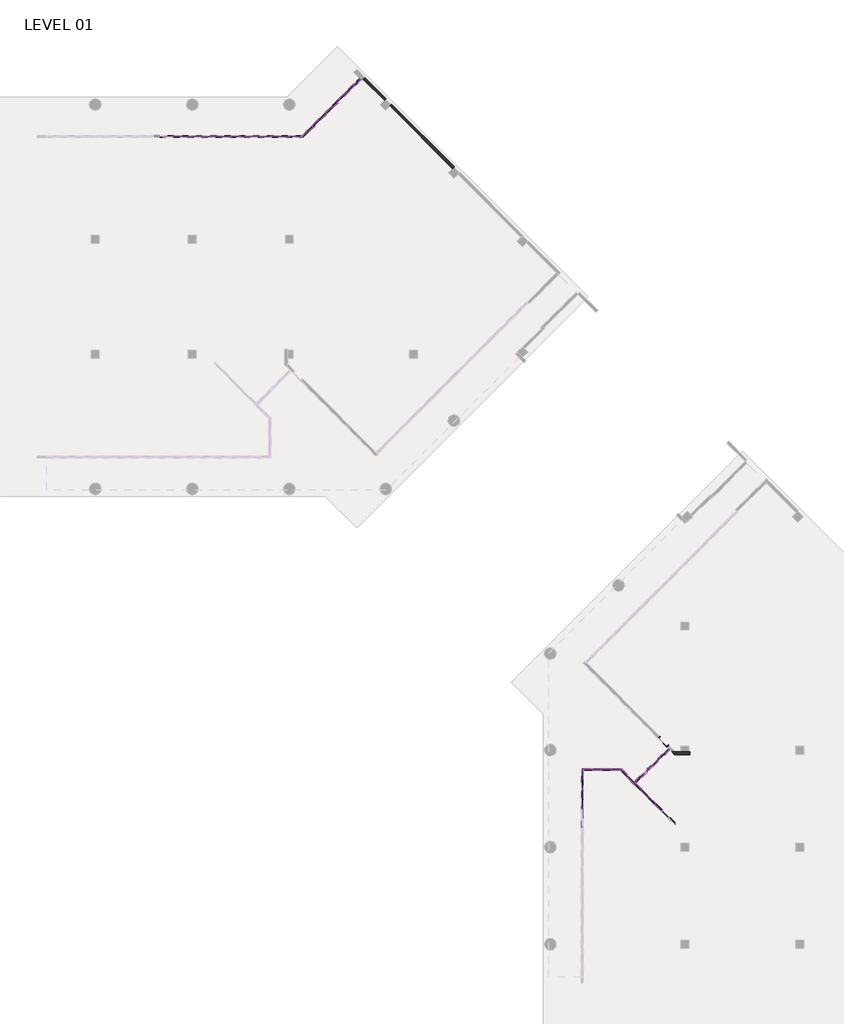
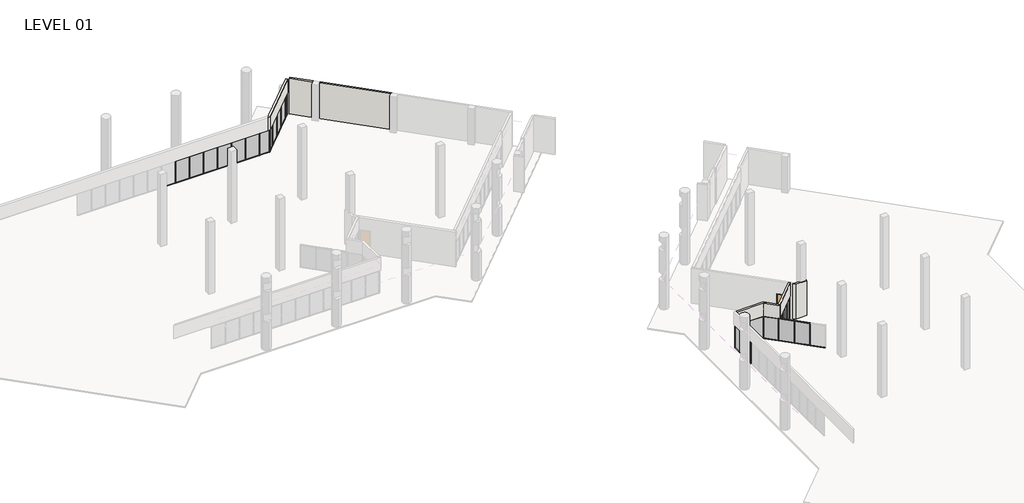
# One storey, part 14 of 24: 77 members, 22 plates, 7 walls, 2 doors.
"""IFC4 building model written with IfcOpenShell, lengths in millimetres."""

from ifc_helpers import new_model, si_unit, frame, origin, origin_with_axes, place, context, project, spatial, polyline, outline, extrude, faceted_brep, transform, mapped, element, save
from components import curtain_wall_dbl_glass_curtain_wall_dbl_glass_ad4eb2cc, door_ce57b39e, member_5247f267, member_ed5eb8ce, member_e44af9ab, member_800970d4, member_224475ab, member_cca1f9e6, member_ccf7f6e3, member_67d17f7f, member_d5560c68, member_35eb671e, member_74c9df78, plate_ce959b8d, plate_67294edd, plate_43a54168, plate_1cd28498, plate_5a14c350, plate_4fb64caf, plate_748a28b9, plate_e3fa2cc7

model = new_model("IFC4")

# Units and contexts
model_context = context("Model", 3, world=origin())
ifc_project = project(units=[si_unit("LENGTHUNIT", "METRE", prefix="MILLI")], contexts=[model_context])

# Site, building, storey
site = spatial("IfcSite", under=ifc_project)
building = spatial("IfcBuilding", under=site)
storey = spatial("IfcBuildingStorey", under=building, Name="LEVEL 01", Elevation=0.0)

# Doors
placement = place(None, origin())
curtain_wall_dbl_glass_curtain_wall_dbl_glass_shape = curtain_wall_dbl_glass_curtain_wall_dbl_glass_ad4eb2cc(model_context)
element("IfcDoor", 1, ObjectType="Curtain Wall Dbl Glass : Curtain Wall Dbl Glass", at=placement, inside=storey, context=model_context, shape_type="MappedRepresentation", body=[
    mapped(curtain_wall_dbl_glass_curtain_wall_dbl_glass_shape, transform((69420.6051367, 67386.6765398, 0.0), x_axis=(0.7071067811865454, 0.7071067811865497, 0.0), y_axis=(-0.7071067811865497, 0.7071067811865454, 0.0), z_axis=(0.0, 0.0, 1.0))),
])
door_shape = door_ce57b39e(model_context)
element("IfcDoor", 2, ObjectType="Single Flush-Full Flush-FF : 3'-0\" X 8'-6\"", at=placement, inside=storey, context=model_context, shape_type="MappedRepresentation", body=[
    mapped(door_shape, transform((70639.3173728, 69603.49563, 0.0), x_axis=(-0.7071067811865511, 0.7071067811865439, 0.0), y_axis=(-0.7071067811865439, -0.7071067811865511, 0.0), z_axis=(0.0, 0.0, 1.0))),
])

# Members
member_shape = member_5247f267(model_context)
element("IfcMember", 3, ObjectType="Rectangular Mullion : 2\" x 4.5\" rectangular", at=placement, inside=storey, context=model_context, shape_type="MappedRepresentation", body=[
    mapped(member_shape, transform((41230.55, 117137.1023049, 0.0), x_axis=(0.0, 0.0, -1.0), y_axis=(0.0, 1.0, 0.0), z_axis=(1.0, 0.0, 0.0))),
])
element("IfcMember", 4, ObjectType="Rectangular Mullion : 2\" x 4.5\" rectangular", at=placement, inside=storey, context=model_context, shape_type="MappedRepresentation", body=[
    mapped(member_shape, transform((39706.55, 117137.1023049, 0.0), x_axis=(0.0, 0.0, -1.0), y_axis=(0.0, 1.0, 0.0), z_axis=(1.0, 0.0, 0.0))),
])
element("IfcMember", 5, ObjectType="Rectangular Mullion : 2\" x 4.5\" rectangular", at=placement, inside=storey, context=model_context, shape_type="MappedRepresentation", body=[
    mapped(member_shape, transform((35134.55, 117137.1023049, 0.0), x_axis=(0.0, 0.0, -1.0), y_axis=(0.0, 1.0, 0.0), z_axis=(1.0, 0.0, 0.0))),
])
element("IfcMember", 6, ObjectType="Rectangular Mullion : 2\" x 4.5\" rectangular", at=placement, inside=storey, context=model_context, shape_type="MappedRepresentation", body=[
    mapped(member_shape, transform((43105.8866519, 117913.8944594, 0.0), x_axis=(0.0, 0.0, -1.0), y_axis=(0.7071067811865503, -0.7071067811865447, 0.0), z_axis=(-0.7071067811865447, -0.7071067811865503, 0.0))),
])
element("IfcMember", 7, ObjectType="Rectangular Mullion : 2\" x 4.5\" rectangular", at=placement, inside=storey, context=model_context, shape_type="MappedRepresentation", body=[
    mapped(member_shape, transform((33610.55, 117137.1023049, 0.0), x_axis=(0.0, 0.0, -1.0), y_axis=(0.0, 1.0, 0.0), z_axis=(1.0, 0.0, 0.0))),
])
element("IfcMember", 8, ObjectType="Rectangular Mullion : 2\" x 4.5\" rectangular", at=placement, inside=storey, context=model_context, shape_type="MappedRepresentation", body=[
    mapped(member_shape, transform((45261.1481209, 120069.1559285, 0.0), x_axis=(0.0, 0.0, -1.0), y_axis=(0.7071067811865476, -0.7071067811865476, 0.0), z_axis=(-0.7071067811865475, -0.7071067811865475, 0.0))),
])
element("IfcMember", 9, ObjectType="Rectangular Mullion : 2\" x 4.5\" rectangular", at=placement, inside=storey, context=model_context, shape_type="MappedRepresentation", body=[
    mapped(member_shape, transform((38182.55, 117137.1023049, 0.0), x_axis=(0.0, 0.0, -1.0), y_axis=(0.0, 1.0, 0.0), z_axis=(1.0, 0.0, 0.0))),
])
element("IfcMember", 10, ObjectType="Rectangular Mullion : 2\" x 4.5\" rectangular", at=placement, inside=storey, context=model_context, shape_type="MappedRepresentation", body=[
    mapped(member_shape, transform((36658.55, 117137.1023049, 0.0), x_axis=(0.0, 0.0, -1.0), y_axis=(0.0, 1.0, 0.0), z_axis=(1.0, 0.0, 0.0))),
])
element("IfcMember", 11, ObjectType="Rectangular Mullion : 2\" x 4.5\" rectangular", at=placement, inside=storey, context=model_context, shape_type="MappedRepresentation", body=[
    mapped(member_shape, transform((32086.55, 117137.1023049, 0.0), x_axis=(0.0, 0.0, -1.0), y_axis=(0.0, 1.0, 0.0), z_axis=(1.0, 0.0, 0.0))),
])
element("IfcMember", 12, ObjectType="Rectangular Mullion : 2\" x 4.5\" rectangular", at=placement, inside=storey, context=model_context, shape_type="MappedRepresentation", body=[
    mapped(member_shape, transform((44183.5173864, 118991.5251939, 0.0), x_axis=(0.0, 0.0, -1.0), y_axis=(0.7071067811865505, -0.7071067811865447, 0.0), z_axis=(-0.7071067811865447, -0.7071067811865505, 0.0))),
])
element("IfcMember", 13, ObjectType="Rectangular Mullion : 2\" x 4.5\" rectangular", at=placement, inside=storey, context=model_context, shape_type="MappedRepresentation", body=[
    mapped(member_shape, transform((39757.35, 117137.1023049, 2590.8), x_axis=(0.0, 0.0, 1.0), y_axis=(0.0, 1.0, 0.0), z_axis=(-1.0, 0.0, 0.0))),
])
element("IfcMember", 14, ObjectType="Rectangular Mullion : 2\" x 4.5\" rectangular", at=placement, inside=storey, context=model_context, shape_type="MappedRepresentation", body=[
    mapped(member_shape, transform((35185.35, 117137.1023049, 2590.8), x_axis=(0.0, 0.0, 1.0), y_axis=(0.0, 1.0, 0.0), z_axis=(-1.0, 0.0, 0.0))),
])
element("IfcMember", 15, ObjectType="Rectangular Mullion : 2\" x 4.5\" rectangular", at=placement, inside=storey, context=model_context, shape_type="MappedRepresentation", body=[
    mapped(member_shape, transform((33661.35, 117137.1023049, 2590.8), x_axis=(0.0, 0.0, 1.0), y_axis=(0.0, 1.0, 0.0), z_axis=(-1.0, 0.0, 0.0))),
])
element("IfcMember", 16, ObjectType="Rectangular Mullion : 2\" x 4.5\" rectangular", at=placement, inside=storey, context=model_context, shape_type="MappedRepresentation", body=[
    mapped(member_shape, transform((45225.2270964, 120033.234904, 2590.8), x_axis=(0.0, 0.0, 1.0), y_axis=(0.7071067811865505, -0.7071067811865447, 0.0), z_axis=(0.7071067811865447, 0.7071067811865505, 0.0))),
])
element("IfcMember", 17, ObjectType="Rectangular Mullion : 2\" x 4.5\" rectangular", at=placement, inside=storey, context=model_context, shape_type="MappedRepresentation", body=[
    mapped(member_shape, transform((38233.35, 117137.1023049, 2590.8), x_axis=(0.0, 0.0, 1.0), y_axis=(0.0, 1.0, 0.0), z_axis=(-1.0, 0.0, 0.0))),
])
element("IfcMember", 18, ObjectType="Rectangular Mullion : 2\" x 4.5\" rectangular", at=placement, inside=storey, context=model_context, shape_type="MappedRepresentation", body=[
    mapped(member_shape, transform((36709.35, 117137.1023049, 2590.8), x_axis=(0.0, 0.0, 1.0), y_axis=(0.0, 1.0, 0.0), z_axis=(-1.0, 0.0, 0.0))),
])
element("IfcMember", 19, ObjectType="Rectangular Mullion : 2\" x 4.5\" rectangular", at=placement, inside=storey, context=model_context, shape_type="MappedRepresentation", body=[
    mapped(member_shape, transform((32137.35, 117137.1023049, 2590.8), x_axis=(0.0, 0.0, 1.0), y_axis=(0.0, 1.0, 0.0), z_axis=(-1.0, 0.0, 0.0))),
])
element("IfcMember", 20, ObjectType="Rectangular Mullion : 2\" x 4.5\" rectangular", at=placement, inside=storey, context=model_context, shape_type="MappedRepresentation", body=[
    mapped(member_shape, transform((44147.5963619, 118955.6041694, 2590.8), x_axis=(0.0, 0.0, 1.0), y_axis=(0.7071067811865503, -0.7071067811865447, 0.0), z_axis=(0.7071067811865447, 0.7071067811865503, 0.0))),
])
element("IfcMember", 21, ObjectType="Rectangular Mullion : 2\" x 4.5\" rectangular", at=placement, inside=storey, context=model_context, shape_type="MappedRepresentation", body=[
    mapped(member_shape, transform((46302.857831, 121110.8656385, 2590.8), x_axis=(0.0, 0.0, 1.0), y_axis=(0.7071067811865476, -0.7071067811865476, 0.0), z_axis=(0.7071067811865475, 0.7071067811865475, 0.0))),
])
member_2_shape = member_ed5eb8ce(model_context)
element("IfcMember", 22, ObjectType="Rectangular Mullion : 2\" x 4.5\" rectangular", at=placement, inside=storey, context=model_context, shape_type="MappedRepresentation", body=[
    mapped(member_2_shape, transform((41281.35, 117137.1023049, 2590.8), x_axis=(0.0, 0.0, 1.0), y_axis=(0.0, 1.0, 0.0), z_axis=(-1.0, 0.0, 0.0))),
])
element("IfcMember", 23, ObjectType="Rectangular Mullion : 2\" x 4.5\" rectangular", at=placement, inside=storey, context=model_context, shape_type="MappedRepresentation", body=[
    mapped(member_2_shape, transform((43069.9656274, 117877.9734349, 2590.8), x_axis=(0.0, 0.0, 1.0), y_axis=(0.7071067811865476, -0.7071067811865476, 0.0), z_axis=(0.7071067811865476, 0.7071067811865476, 0.0))),
])
element("IfcMember", 24, ObjectType="Rectangular Mullion : 2\" x 4.5\" rectangular", at=placement, inside=storey, context=model_context, shape_type="MappedRepresentation", body=[
    mapped(member_2_shape, transform((42278.2944974, 117137.1023049, 0.0), x_axis=(0.0, 0.0, -1.0), y_axis=(0.0, 1.0, 0.0), z_axis=(1.0, 0.0, 0.0))),
])
element("IfcMember", 25, ObjectType="Rectangular Mullion : 2\" x 4.5\" rectangular", at=placement, inside=storey, context=model_context, shape_type="MappedRepresentation", body=[
    mapped(member_2_shape, transform((42365.0155219, 117173.0233294, 0.0), x_axis=(0.0, 0.0, -1.0), y_axis=(0.7071067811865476, -0.7071067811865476, 0.0), z_axis=(-0.7071067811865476, -0.7071067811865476, 0.0))),
])
member_3_shape = member_e44af9ab(model_context)
element("IfcMember", 26, ObjectType="Rectangular Mullion : 2\" x 4.5\" rectangular", at=placement, inside=storey, context=model_context, shape_type="MappedRepresentation", body=[
    mapped(member_3_shape, transform((41255.95, 117137.1023049, 0.0), x_axis=(-1.0, 0.0, 0.0), y_axis=(0.0, 1.0, 0.0), z_axis=(0.0, 0.0, -1.0))),
])
element("IfcMember", 27, ObjectType="Rectangular Mullion : 2\" x 4.5\" rectangular", at=placement, inside=storey, context=model_context, shape_type="MappedRepresentation", body=[
    mapped(member_3_shape, transform((39731.95, 117137.1023049, 0.0), x_axis=(-1.0, 0.0, 0.0), y_axis=(0.0, 1.0, 0.0), z_axis=(0.0, 0.0, -1.0))),
])
element("IfcMember", 28, ObjectType="Rectangular Mullion : 2\" x 4.5\" rectangular", at=placement, inside=storey, context=model_context, shape_type="MappedRepresentation", body=[
    mapped(member_3_shape, transform((35159.95, 117137.1023049, 0.0), x_axis=(-1.0, 0.0, 0.0), y_axis=(0.0, 1.0, 0.0), z_axis=(0.0, 0.0, -1.0))),
])
element("IfcMember", 29, ObjectType="Rectangular Mullion : 2\" x 4.5\" rectangular", at=placement, inside=storey, context=model_context, shape_type="MappedRepresentation", body=[
    mapped(member_3_shape, transform((43087.9261396, 117895.9339472, 0.0), x_axis=(0.7071067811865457, 0.7071067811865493, 0.0), y_axis=(0.7071067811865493, -0.7071067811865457, 0.0), z_axis=(0.0, 0.0, -1.0))),
])
element("IfcMember", 30, ObjectType="Rectangular Mullion : 2\" x 4.5\" rectangular", at=placement, inside=storey, context=model_context, shape_type="MappedRepresentation", body=[
    mapped(member_3_shape, transform((33635.95, 117137.1023049, 0.0), x_axis=(-1.0, 0.0, 0.0), y_axis=(0.0, 1.0, 0.0), z_axis=(0.0, 0.0, -1.0))),
])
element("IfcMember", 31, ObjectType="Rectangular Mullion : 2\" x 4.5\" rectangular", at=placement, inside=storey, context=model_context, shape_type="MappedRepresentation", body=[
    mapped(member_3_shape, transform((45243.1876087, 120051.1954162, 0.0), x_axis=(0.7071067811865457, 0.7071067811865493, 0.0), y_axis=(0.7071067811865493, -0.7071067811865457, 0.0), z_axis=(0.0, 0.0, -1.0))),
])
element("IfcMember", 32, ObjectType="Rectangular Mullion : 2\" x 4.5\" rectangular", at=placement, inside=storey, context=model_context, shape_type="MappedRepresentation", body=[
    mapped(member_3_shape, transform((38207.95, 117137.1023049, 0.0), x_axis=(-1.0, 0.0, 0.0), y_axis=(0.0, 1.0, 0.0), z_axis=(0.0, 0.0, -1.0))),
])
element("IfcMember", 33, ObjectType="Rectangular Mullion : 2\" x 4.5\" rectangular", at=placement, inside=storey, context=model_context, shape_type="MappedRepresentation", body=[
    mapped(member_3_shape, transform((36683.95, 117137.1023049, 0.0), x_axis=(-1.0, 0.0, 0.0), y_axis=(0.0, 1.0, 0.0), z_axis=(0.0, 0.0, -1.0))),
])
element("IfcMember", 34, ObjectType="Rectangular Mullion : 2\" x 4.5\" rectangular", at=placement, inside=storey, context=model_context, shape_type="MappedRepresentation", body=[
    mapped(member_3_shape, transform((32111.95, 117137.1023049, 0.0), x_axis=(-1.0, 0.0, 0.0), y_axis=(0.0, 1.0, 0.0), z_axis=(0.0, 0.0, -1.0))),
])
element("IfcMember", 35, ObjectType="Rectangular Mullion : 2\" x 4.5\" rectangular", at=placement, inside=storey, context=model_context, shape_type="MappedRepresentation", body=[
    mapped(member_3_shape, transform((44165.5568742, 118973.5646817, 0.0), x_axis=(0.7071067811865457, 0.7071067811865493, 0.0), y_axis=(0.7071067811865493, -0.7071067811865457, 0.0), z_axis=(0.0, 0.0, -1.0))),
])
element("IfcMember", 36, ObjectType="Rectangular Mullion : 2\" x 4.5\" rectangular", at=placement, inside=storey, context=model_context, shape_type="MappedRepresentation", body=[
    mapped(member_3_shape, transform((46320.8183432, 121128.8261507, 0.0), x_axis=(0.7071067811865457, 0.7071067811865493, 0.0), y_axis=(0.7071067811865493, -0.7071067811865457, 0.0), z_axis=(0.0, 0.0, -1.0))),
])
member_4_shape = member_800970d4(model_context)
element("IfcMember", 37, ObjectType="Rectangular Mullion : 2\" x 4.5\" rectangular", at=placement, inside=storey, context=model_context, shape_type="MappedRepresentation", body=[
    mapped(member_4_shape, transform((46826.0801997, 121634.0880073, 0.0), x_axis=(0.7071067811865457, 0.7071067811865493, 0.0), y_axis=(0.7071067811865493, -0.7071067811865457, 0.0), z_axis=(0.0, 0.0, -1.0))),
])
element("IfcMember", 38, ObjectType="Rectangular Mullion : 2\" x 4.5\" rectangular", at=placement, inside=storey, context=model_context, shape_type="MappedRepresentation", body=[
    mapped(member_4_shape, transform((42329.0944974, 117137.1023049, 2590.8), x_axis=(1.0, 0.0, 0.0), y_axis=(0.0, 1.0, 0.0), z_axis=(0.0, 0.0, 1.0))),
])
element("IfcMember", 39, ObjectType="Rectangular Mullion : 2\" x 4.5\" rectangular", at=placement, inside=storey, context=model_context, shape_type="MappedRepresentation", body=[
    mapped(member_4_shape, transform((42329.0944974, 117137.1023049, 2590.8), x_axis=(-0.7071067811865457, -0.7071067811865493, 0.0), y_axis=(0.7071067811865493, -0.7071067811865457, 0.0), z_axis=(0.0, 0.0, 1.0))),
])
member_5_shape = member_224475ab(model_context)
element("IfcMember", 40, ObjectType="Rectangular Mullion : 2\" x 4.5\" rectangular", at=placement, inside=storey, context=model_context, shape_type="MappedRepresentation", body=[
    mapped(member_5_shape, transform((46790.1591752, 121598.1669828, 2590.8), x_axis=(0.0, 0.0, 1.0), y_axis=(0.7071067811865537, -0.7071067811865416, 0.0), z_axis=(0.7071067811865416, 0.7071067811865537, 0.0))),
])
element("IfcMember", 41, ObjectType="Rectangular Mullion : 2\" x 4.5\" rectangular", at=placement, inside=storey, context=model_context, shape_type="MappedRepresentation", body=[
    mapped(member_5_shape, transform((46338.7788555, 121146.786663, 0.0), x_axis=(0.0, 0.0, -1.0), y_axis=(0.7071067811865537, -0.7071067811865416, 0.0), z_axis=(-0.7071067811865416, -0.7071067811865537, 0.0))),
])
element("IfcMember", 42, ObjectType="Rectangular Mullion : 2\" x 4.5\" rectangular", at=placement, inside=storey, context=model_context, shape_type="MappedRepresentation", body=[
    mapped(member_shape, transform((64254.6347164, 65874.5675885, 2590.8), x_axis=(0.0, 0.0, 1.0), y_axis=(1.0, 0.0, 0.0), z_axis=(0.0, 1.0, 0.0))),
])
element("IfcMember", 43, ObjectType="Rectangular Mullion : 2\" x 4.5\" rectangular", at=placement, inside=storey, context=model_context, shape_type="MappedRepresentation", body=[
    mapped(member_shape, transform((64254.6347164, 64350.5675885, 2590.8), x_axis=(0.0, 0.0, 1.0), y_axis=(1.0, 0.0, 0.0), z_axis=(0.0, 1.0, 0.0))),
])
element("IfcMember", 44, ObjectType="Rectangular Mullion : 2\" x 4.5\" rectangular", at=placement, inside=storey, context=model_context, shape_type="MappedRepresentation", body=[
    mapped(member_shape, transform((70517.5664077, 64209.0358972, 2590.8), x_axis=(0.0, 0.0, 1.0), y_axis=(-0.7071067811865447, -0.7071067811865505, 0.0), z_axis=(0.7071067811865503, -0.7071067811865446, 0.0))),
])
element("IfcMember", 45, ObjectType="Rectangular Mullion : 2\" x 4.5\" rectangular", at=placement, inside=storey, context=model_context, shape_type="MappedRepresentation", body=[
    mapped(member_shape, transform((69439.9356732, 65286.6666317, 2590.8), x_axis=(0.0, 0.0, 1.0), y_axis=(-0.7071067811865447, -0.7071067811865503, 0.0), z_axis=(0.7071067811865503, -0.7071067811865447, 0.0))),
])
element("IfcMember", 46, ObjectType="Rectangular Mullion : 2\" x 4.5\" rectangular", at=placement, inside=storey, context=model_context, shape_type="MappedRepresentation", body=[
    mapped(member_shape, transform((64254.6347164, 64401.3675885, 0.0), x_axis=(0.0, 0.0, -1.0), y_axis=(1.0, 0.0, 0.0), z_axis=(0.0, -1.0, 0.0))),
])
element("IfcMember", 47, ObjectType="Rectangular Mullion : 2\" x 4.5\" rectangular", at=placement, inside=storey, context=model_context, shape_type="MappedRepresentation", body=[
    mapped(member_shape, transform((68398.2259632, 66328.3763418, 0.0), x_axis=(0.0, 0.0, -1.0), y_axis=(-0.7071067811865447, -0.7071067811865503, 0.0), z_axis=(-0.7071067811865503, 0.7071067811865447, 0.0))),
])
element("IfcMember", 48, ObjectType="Rectangular Mullion : 2\" x 4.5\" rectangular", at=placement, inside=storey, context=model_context, shape_type="MappedRepresentation", body=[
    mapped(member_shape, transform((69475.8566977, 65250.7456072, 0.0), x_axis=(0.0, 0.0, -1.0), y_axis=(-0.7071067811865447, -0.7071067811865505, 0.0), z_axis=(-0.7071067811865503, 0.7071067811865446, 0.0))),
])
element("IfcMember", 49, ObjectType="Rectangular Mullion : 2\" x 4.5\" rectangular", at=placement, inside=storey, context=model_context, shape_type="MappedRepresentation", body=[
    mapped(member_3_shape, transform((64254.6347164, 65899.9675885, 0.0), x_axis=(0.0, 1.0, 0.0), y_axis=(1.0, 0.0, 0.0), z_axis=(0.0, 0.0, -1.0))),
])
element("IfcMember", 50, ObjectType="Rectangular Mullion : 2\" x 4.5\" rectangular", at=placement, inside=storey, context=model_context, shape_type="MappedRepresentation", body=[
    mapped(member_3_shape, transform((64254.6347164, 64375.9675885, 0.0), x_axis=(0.0, 1.0, 0.0), y_axis=(1.0, 0.0, 0.0), z_axis=(0.0, 0.0, -1.0))),
])
element("IfcMember", 51, ObjectType="Rectangular Mullion : 2\" x 4.5\" rectangular", at=placement, inside=storey, context=model_context, shape_type="MappedRepresentation", body=[
    mapped(member_3_shape, transform((65778.6347164, 67423.9675885, 0.0), x_axis=(1.0, 0.0, 0.0), y_axis=(0.0, -1.0, 0.0), z_axis=(0.0, 0.0, -1.0))),
])
element("IfcMember", 52, ObjectType="Rectangular Mullion : 2\" x 4.5\" rectangular", at=placement, inside=storey, context=model_context, shape_type="MappedRepresentation", body=[
    mapped(member_3_shape, transform((68380.2654509, 66346.336854, 0.0), x_axis=(0.7071067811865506, -0.7071067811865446, 0.0), y_axis=(-0.7071067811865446, -0.7071067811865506, 0.0), z_axis=(0.0, 0.0, -1.0))),
])
element("IfcMember", 53, ObjectType="Rectangular Mullion : 2\" x 4.5\" rectangular", at=placement, inside=storey, context=model_context, shape_type="MappedRepresentation", body=[
    mapped(member_3_shape, transform((70535.52692, 64191.0753849, 0.0), x_axis=(0.7071067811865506, -0.7071067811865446, 0.0), y_axis=(-0.7071067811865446, -0.7071067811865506, 0.0), z_axis=(0.0, 0.0, -1.0))),
])
element("IfcMember", 54, ObjectType="Rectangular Mullion : 2\" x 4.5\" rectangular", at=placement, inside=storey, context=model_context, shape_type="MappedRepresentation", body=[
    mapped(member_3_shape, transform((69457.8961855, 65268.7061195, 0.0), x_axis=(0.7071067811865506, -0.7071067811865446, 0.0), y_axis=(-0.7071067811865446, -0.7071067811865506, 0.0), z_axis=(0.0, 0.0, -1.0))),
])
element("IfcMember", 55, ObjectType="Rectangular Mullion : 2\" x 4.5\" rectangular", at=placement, inside=storey, context=model_context, shape_type="MappedRepresentation", body=[
    mapped(member_3_shape, transform((69097.6075963, 67063.6789994, 0.0), x_axis=(0.7071067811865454, 0.7071067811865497, 0.0), y_axis=(0.7071067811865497, -0.7071067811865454, 0.0), z_axis=(0.0, 0.0, -1.0))),
])
element("IfcMember", 56, ObjectType="Rectangular Mullion : 2\" x 4.5\" rectangular", at=placement, inside=storey, context=model_context, shape_type="MappedRepresentation", body=[
    mapped(member_3_shape, transform((70390.7644778, 68356.8358808, 0.0), x_axis=(0.7071067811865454, 0.7071067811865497, 0.0), y_axis=(0.7071067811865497, -0.7071067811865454, 0.0), z_axis=(0.0, 0.0, -1.0))),
])
element("IfcMember", 57, ObjectType="Rectangular Mullion : 2\" x 4.5\" rectangular", at=placement, inside=storey, context=model_context, shape_type="MappedRepresentation", body=[
    mapped(member_4_shape, transform((64254.6347164, 67423.9675885, 0.0), x_axis=(0.0, 1.0, 0.0), y_axis=(1.0, 0.0, 0.0), z_axis=(0.0, 0.0, -1.0))),
])
element("IfcMember", 58, ObjectType="Rectangular Mullion : 2\" x 4.5\" rectangular", at=placement, inside=storey, context=model_context, shape_type="MappedRepresentation", body=[
    mapped(member_4_shape, transform((67302.6347164, 67423.9675885, 0.0), x_axis=(1.0, 0.0, 0.0), y_axis=(0.0, -1.0, 0.0), z_axis=(0.0, 0.0, -1.0))),
])
element("IfcMember", 59, ObjectType="Rectangular Mullion : 2\" x 4.5\" rectangular", at=placement, inside=storey, context=model_context, shape_type="MappedRepresentation", body=[
    mapped(member_4_shape, transform((71066.5287509, 69032.6001539, 0.0), x_axis=(0.7071067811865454, 0.7071067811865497, 0.0), y_axis=(0.7071067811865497, -0.7071067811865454, 0.0), z_axis=(0.0, 0.0, -1.0))),
])
element("IfcMember", 60, ObjectType="Rectangular Mullion : 2\" x 4.5\" rectangular", at=placement, inside=storey, context=model_context, shape_type="MappedRepresentation", body=[
    mapped(member_4_shape, transform((64254.6347164, 67423.9675885, 2590.8), x_axis=(-1.0, 0.0, 0.0), y_axis=(0.0, -1.0, 0.0), z_axis=(0.0, 0.0, 1.0))),
])
element("IfcMember", 61, ObjectType="Rectangular Mullion : 2\" x 4.5\" rectangular", at=placement, inside=storey, context=model_context, shape_type="MappedRepresentation", body=[
    mapped(member_4_shape, transform((67302.6347164, 67423.9675885, 2590.8), x_axis=(-0.7071067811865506, 0.7071067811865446, 0.0), y_axis=(-0.7071067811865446, -0.7071067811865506, 0.0), z_axis=(0.0, 0.0, 1.0))),
])
element("IfcMember", 62, ObjectType="Rectangular Mullion : 2\" x 4.5\" rectangular", at=placement, inside=storey, context=model_context, shape_type="MappedRepresentation", body=[
    mapped(member_4_shape, transform((68420.6766035, 66386.7480065, 2590.8), x_axis=(-0.7071067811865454, -0.7071067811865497, 0.0), y_axis=(0.7071067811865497, -0.7071067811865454, 0.0), z_axis=(0.0, 0.0, 1.0))),
])
member_6_shape = member_cca1f9e6(model_context)
element("IfcMember", 63, ObjectType="Rectangular Mullion : 2\" x 4.5\" rectangular", at=placement, inside=storey, context=model_context, shape_type="MappedRepresentation", body=[
    mapped(member_6_shape, transform((64254.6347164, 67373.1675885, 2590.8), x_axis=(0.0, 0.0, 1.0), y_axis=(1.0, 0.0, 0.0), z_axis=(0.0, 1.0, 0.0))),
])
element("IfcMember", 64, ObjectType="Rectangular Mullion : 2\" x 4.5\" rectangular", at=placement, inside=storey, context=model_context, shape_type="MappedRepresentation", body=[
    mapped(member_6_shape, transform((67251.8347164, 67423.9675885, 2590.8), x_axis=(0.0, 0.0, 1.0), y_axis=(0.0, -1.0, 0.0), z_axis=(1.0, 0.0, 0.0))),
])
element("IfcMember", 65, ObjectType="Rectangular Mullion : 2\" x 4.5\" rectangular", at=placement, inside=storey, context=model_context, shape_type="MappedRepresentation", body=[
    mapped(member_6_shape, transform((65753.2347164, 67423.9675885, 2590.8), x_axis=(0.0, 0.0, 1.0), y_axis=(0.0, -1.0, 0.0), z_axis=(1.0, 0.0, 0.0))),
])
element("IfcMember", 66, ObjectType="Rectangular Mullion : 2\" x 4.5\" rectangular", at=placement, inside=storey, context=model_context, shape_type="MappedRepresentation", body=[
    mapped(member_6_shape, transform((68362.3049387, 66364.2973662, 2590.8), x_axis=(0.0, 0.0, 1.0), y_axis=(-0.7071067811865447, -0.7071067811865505, 0.0), z_axis=(0.7071067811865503, -0.7071067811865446, 0.0))),
])
member_7_shape = member_ccf7f6e3(model_context)
element("IfcMember", 67, ObjectType="Rectangular Mullion : 2\" x 4.5\" rectangular", at=placement, inside=storey, context=model_context, shape_type="MappedRepresentation", body=[
    mapped(member_7_shape, transform((64305.4347164, 67423.9675885, 0.0), x_axis=(0.0, 0.0, -1.0), y_axis=(0.0, -1.0, 0.0), z_axis=(-1.0, 0.0, 0.0))),
])
element("IfcMember", 68, ObjectType="Rectangular Mullion : 2\" x 4.5\" rectangular", at=placement, inside=storey, context=model_context, shape_type="MappedRepresentation", body=[
    mapped(member_7_shape, transform((64254.6347164, 65925.3675885, 0.0), x_axis=(0.0, 0.0, -1.0), y_axis=(1.0, 0.0, 0.0), z_axis=(0.0, -1.0, 0.0))),
])
element("IfcMember", 69, ObjectType="Rectangular Mullion : 2\" x 4.5\" rectangular", at=placement, inside=storey, context=model_context, shape_type="MappedRepresentation", body=[
    mapped(member_7_shape, transform((65804.0347164, 67423.9675885, 0.0), x_axis=(0.0, 0.0, -1.0), y_axis=(0.0, -1.0, 0.0), z_axis=(-1.0, 0.0, 0.0))),
])
element("IfcMember", 70, ObjectType="Rectangular Mullion : 2\" x 4.5\" rectangular", at=placement, inside=storey, context=model_context, shape_type="MappedRepresentation", body=[
    mapped(member_7_shape, transform((67338.5557409, 67388.046564, 0.0), x_axis=(0.0, 0.0, -1.0), y_axis=(-0.7071067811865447, -0.7071067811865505, 0.0), z_axis=(-0.7071067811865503, 0.7071067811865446, 0.0))),
])
element("IfcMember", 71, ObjectType="Rectangular Mullion : 2\" x 4.5\" rectangular", at=placement, inside=storey, context=model_context, shape_type="MappedRepresentation", body=[
    mapped(member_7_shape, transform((70553.4874322, 64173.1148727, 0.0), x_axis=(0.0, 0.0, -1.0), y_axis=(-0.7071067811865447, -0.7071067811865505, 0.0), z_axis=(-0.7071067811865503, 0.7071067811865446, 0.0))),
])
member_8_shape = member_67d17f7f(model_context)
element("IfcMember", 72, ObjectType="Rectangular Mullion : 2\" x 4.5\" rectangular", at=placement, inside=storey, context=model_context, shape_type="MappedRepresentation", body=[
    mapped(member_8_shape, transform((71030.6077264, 68996.6791294, 2590.8), x_axis=(0.0, 0.0, 1.0), y_axis=(0.7071067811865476, -0.7071067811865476, 0.0), z_axis=(0.7071067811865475, 0.7071067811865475, 0.0))),
])
member_9_shape = member_d5560c68(model_context)
element("IfcMember", 73, ObjectType="Rectangular Mullion : 2\" x 4.5\" rectangular", at=placement, inside=storey, context=model_context, shape_type="MappedRepresentation", body=[
    mapped(member_9_shape, transform((68456.597628, 66422.669031, 0.0), x_axis=(0.0, 0.0, -1.0), y_axis=(0.707106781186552, -0.707106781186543, 0.0), z_axis=(-0.707106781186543, -0.707106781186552, 0.0))),
])
element("IfcMember", 74, ObjectType="Rectangular Mullion : 2\" x 4.5\" rectangular", at=placement, inside=storey, context=model_context, shape_type="MappedRepresentation", body=[
    mapped(member_9_shape, transform((69079.6470841, 67045.7184871, 2590.8), x_axis=(0.0, 0.0, 1.0), y_axis=(0.707106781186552, -0.707106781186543, 0.0), z_axis=(0.707106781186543, 0.707106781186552, 0.0))),
])
element("IfcMember", 75, ObjectType="Rectangular Mullion : 2\" x 4.5\" rectangular", at=placement, inside=storey, context=model_context, shape_type="MappedRepresentation", body=[
    mapped(member_8_shape, transform((70408.72499, 68374.7963931, 0.0), x_axis=(0.0, 0.0, -1.0), y_axis=(0.7071067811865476, -0.7071067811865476, 0.0), z_axis=(-0.7071067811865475, -0.7071067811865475, 0.0))),
])
element("IfcMember", 76, ObjectType="Rectangular Mullion : 2\" x 4.5\" rectangular", at=placement, inside=storey, context=model_context, shape_type="MappedRepresentation", body=[
    mapped(member_3_shape, transform((69743.6026772, 67709.6740802, 0.0), x_axis=(0.7071067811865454, 0.7071067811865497, 0.0), y_axis=(0.7071067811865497, -0.7071067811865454, 0.0), z_axis=(0.0, 0.0, -1.0))),
])
member_10_shape = member_35eb671e(model_context)
element("IfcMember", 77, ObjectType="Rectangular Mullion : 2\" x 4.5\" rectangular", at=placement, inside=storey, context=model_context, shape_type="MappedRepresentation", body=[
    mapped(member_10_shape, transform((70372.8039655, 68338.8753686, 2590.8), x_axis=(0.0, 0.0, 1.0), y_axis=(0.7071067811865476, -0.7071067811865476, 0.0), z_axis=(0.7071067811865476, 0.7071067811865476, 0.0))),
])
member_11_shape = member_74c9df78(model_context)
element("IfcMember", 78, ObjectType="Rectangular Mullion : 2\" x 4.5\" rectangular", at=placement, inside=storey, context=model_context, shape_type="MappedRepresentation", body=[
    mapped(member_11_shape, transform((69725.6421649, 67691.713568, 2590.8), x_axis=(0.0, 0.0, 1.0), y_axis=(0.7071067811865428, -0.7071067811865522, 0.0), z_axis=(0.7071067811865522, 0.7071067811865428, 0.0))),
])
element("IfcMember", 79, ObjectType="Rectangular Mullion : 2\" x 4.5\" rectangular", at=placement, inside=storey, context=model_context, shape_type="MappedRepresentation", body=[
    mapped(member_10_shape, transform((69761.5631894, 67727.6345925, 0.0), x_axis=(0.0, 0.0, -1.0), y_axis=(0.7071067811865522, -0.7071067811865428, 0.0), z_axis=(-0.7071067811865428, -0.7071067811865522, 0.0))),
])

# Plates
plate_shape = plate_ce959b8d(model_context)
element("IfcPlate", 80, ObjectType="System Panel : 1/4\" Glass", at=placement, inside=storey, context=model_context, shape_type="MappedRepresentation", body=[
    mapped(plate_shape, transform((41779.8222487, 117137.1023049, 50.8), x_axis=(-1.0, 0.0, 0.0), y_axis=(0.0, -1.0, 0.0), z_axis=(0.0, 0.0, 1.0))),
])
plate_2_shape = plate_67294edd(model_context)
element("IfcPlate", 81, ObjectType="System Panel : 1/4\" Glass", at=placement, inside=storey, context=model_context, shape_type="MappedRepresentation", body=[
    mapped(plate_2_shape, transform((40493.95, 117137.1023049, 50.8), x_axis=(-1.0, 0.0, 0.0), y_axis=(0.0, -1.0, 0.0), z_axis=(0.0, 0.0, 1.0))),
])
element("IfcPlate", 82, ObjectType="System Panel : 1/4\" Glass", at=placement, inside=storey, context=model_context, shape_type="MappedRepresentation", body=[
    mapped(plate_2_shape, transform((38969.95, 117137.1023049, 50.8), x_axis=(-1.0, 0.0, 0.0), y_axis=(0.0, -1.0, 0.0), z_axis=(0.0, 0.0, 1.0))),
])
element("IfcPlate", 83, ObjectType="System Panel : 1/4\" Glass", at=placement, inside=storey, context=model_context, shape_type="MappedRepresentation", body=[
    mapped(plate_2_shape, transform((34397.95, 117137.1023049, 50.8), x_axis=(-1.0, 0.0, 0.0), y_axis=(0.0, -1.0, 0.0), z_axis=(0.0, 0.0, 1.0))),
])
element("IfcPlate", 84, ObjectType="System Panel : 1/4\" Glass", at=placement, inside=storey, context=model_context, shape_type="MappedRepresentation", body=[
    mapped(plate_2_shape, transform((43626.7415069, 118434.7493144, 50.8), x_axis=(0.7071067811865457, 0.7071067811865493, 0.0), y_axis=(-0.7071067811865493, 0.7071067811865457, 0.0), z_axis=(0.0, 0.0, 1.0))),
])
element("IfcPlate", 85, ObjectType="System Panel : 1/4\" Glass", at=placement, inside=storey, context=model_context, shape_type="MappedRepresentation", body=[
    mapped(plate_2_shape, transform((32873.95, 117137.1023049, 50.8), x_axis=(-1.0, 0.0, 0.0), y_axis=(0.0, -1.0, 0.0), z_axis=(0.0, 0.0, 1.0))),
])
element("IfcPlate", 86, ObjectType="System Panel : 1/4\" Glass", at=placement, inside=storey, context=model_context, shape_type="MappedRepresentation", body=[
    mapped(plate_2_shape, transform((45782.0029759, 120590.0107835, 50.8), x_axis=(0.7071067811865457, 0.7071067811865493, 0.0), y_axis=(-0.7071067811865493, 0.7071067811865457, 0.0), z_axis=(0.0, 0.0, 1.0))),
])
element("IfcPlate", 87, ObjectType="System Panel : 1/4\" Glass", at=placement, inside=storey, context=model_context, shape_type="MappedRepresentation", body=[
    mapped(plate_2_shape, transform((37445.95, 117137.1023049, 50.8), x_axis=(-1.0, 0.0, 0.0), y_axis=(0.0, -1.0, 0.0), z_axis=(0.0, 0.0, 1.0))),
])
element("IfcPlate", 88, ObjectType="System Panel : 1/4\" Glass", at=placement, inside=storey, context=model_context, shape_type="MappedRepresentation", body=[
    mapped(plate_2_shape, transform((35921.95, 117137.1023049, 50.8), x_axis=(-1.0, 0.0, 0.0), y_axis=(0.0, -1.0, 0.0), z_axis=(0.0, 0.0, 1.0))),
])
element("IfcPlate", 89, ObjectType="System Panel : 1/4\" Glass", at=placement, inside=storey, context=model_context, shape_type="MappedRepresentation", body=[
    mapped(plate_2_shape, transform((44704.3722414, 119512.3800489, 50.8), x_axis=(0.7071067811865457, 0.7071067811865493, 0.0), y_axis=(-0.7071067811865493, 0.7071067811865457, 0.0), z_axis=(0.0, 0.0, 1.0))),
])
plate_3_shape = plate_43a54168(model_context)
element("IfcPlate", 90, ObjectType="System Panel : 1/4\" Glass", at=placement, inside=storey, context=model_context, shape_type="MappedRepresentation", body=[
    mapped(plate_3_shape, transform((42717.4905746, 117525.4983822, 50.8), x_axis=(0.7071067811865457, 0.7071067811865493, 0.0), y_axis=(-0.7071067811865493, 0.7071067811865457, 0.0), z_axis=(0.0, 0.0, 1.0))),
])
plate_4_shape = plate_1cd28498(model_context)
element("IfcPlate", 91, ObjectType="System Panel : 1/4\" Glass", at=placement, inside=storey, context=model_context, shape_type="MappedRepresentation", body=[
    mapped(plate_4_shape, transform((46564.4690153, 121372.4768229, 50.8), x_axis=(0.7071067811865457, 0.7071067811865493, 0.0), y_axis=(-0.7071067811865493, 0.7071067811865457, 0.0), z_axis=(0.0, 0.0, 1.0))),
])
element("IfcPlate", 92, ObjectType="System Panel : 1/4\" Glass", at=placement, inside=storey, context=model_context, shape_type="MappedRepresentation", body=[
    mapped(plate_2_shape, transform((64254.6347164, 65137.9675885, 50.8), x_axis=(0.0, 1.0, 0.0), y_axis=(-1.0, 0.0, 0.0), z_axis=(0.0, 0.0, 1.0))),
])
element("IfcPlate", 93, ObjectType="System Panel : 1/4\" Glass", at=placement, inside=storey, context=model_context, shape_type="MappedRepresentation", body=[
    mapped(plate_2_shape, transform((68919.0808182, 65807.5214867, 50.8), x_axis=(0.7071067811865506, -0.7071067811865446, 0.0), y_axis=(0.7071067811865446, 0.7071067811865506, 0.0), z_axis=(0.0, 0.0, 1.0))),
])
element("IfcPlate", 94, ObjectType="System Panel : 1/4\" Glass", at=placement, inside=storey, context=model_context, shape_type="MappedRepresentation", body=[
    mapped(plate_2_shape, transform((69996.7115527, 64729.8907522, 50.8), x_axis=(0.7071067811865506, -0.7071067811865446, 0.0), y_axis=(0.7071067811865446, 0.7071067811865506, 0.0), z_axis=(0.0, 0.0, 1.0))),
])
plate_5_shape = plate_5a14c350(model_context)
element("IfcPlate", 95, ObjectType="System Panel : 1/4\" Glass", at=placement, inside=storey, context=model_context, shape_type="MappedRepresentation", body=[
    mapped(plate_5_shape, transform((65029.3347164, 67423.9675885, 50.8), x_axis=(1.0, 0.0, 0.0), y_axis=(0.0, 1.0, 0.0), z_axis=(0.0, 0.0, 1.0))),
])
element("IfcPlate", 96, ObjectType="System Panel : 1/4\" Glass", at=placement, inside=storey, context=model_context, shape_type="MappedRepresentation", body=[
    mapped(plate_5_shape, transform((66527.9347164, 67423.9675885, 50.8), x_axis=(1.0, 0.0, 0.0), y_axis=(0.0, 1.0, 0.0), z_axis=(0.0, 0.0, 1.0))),
])
element("IfcPlate", 97, ObjectType="System Panel : 1/4\" Glass", at=placement, inside=storey, context=model_context, shape_type="MappedRepresentation", body=[
    mapped(plate_5_shape, transform((64254.6347164, 66649.2675885, 50.8), x_axis=(0.0, 1.0, 0.0), y_axis=(-1.0, 0.0, 0.0), z_axis=(0.0, 0.0, 1.0))),
])
element("IfcPlate", 98, ObjectType="System Panel : 1/4\" Glass", at=placement, inside=storey, context=model_context, shape_type="MappedRepresentation", body=[
    mapped(plate_5_shape, transform((67850.4303398, 66876.1719651, 50.8), x_axis=(0.7071067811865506, -0.7071067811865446, 0.0), y_axis=(0.7071067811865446, 0.7071067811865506, 0.0), z_axis=(0.0, 0.0, 1.0))),
])
plate_6_shape = plate_4fb64caf(model_context)
element("IfcPlate", 99, ObjectType="System Panel : 1/4\" Glass", at=placement, inside=storey, context=model_context, shape_type="MappedRepresentation", body=[
    mapped(plate_6_shape, transform((68768.122356, 66734.1937591, 50.8), x_axis=(0.7071067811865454, 0.7071067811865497, 0.0), y_axis=(-0.7071067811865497, 0.7071067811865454, 0.0), z_axis=(0.0, 0.0, 1.0))),
])
plate_7_shape = plate_748a28b9(model_context)
element("IfcPlate", 100, ObjectType="System Panel : 1/4\" Glass", at=placement, inside=storey, context=model_context, shape_type="MappedRepresentation", body=[
    mapped(plate_7_shape, transform((70719.6663582, 68685.7377613, 50.8), x_axis=(0.7071067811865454, 0.7071067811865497, 0.0), y_axis=(-0.7071067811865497, 0.7071067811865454, 0.0), z_axis=(0.0, 0.0, 1.0))),
])
plate_8_shape = plate_e3fa2cc7(model_context)
element("IfcPlate", 101, ObjectType="System Panel : 1/4\" Glass", at=placement, inside=storey, context=model_context, shape_type="MappedRepresentation", body=[
    mapped(plate_8_shape, transform((70067.1835775, 68033.2549805, 50.8), x_axis=(0.7071067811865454, 0.7071067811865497, 0.0), y_axis=(-0.7071067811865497, 0.7071067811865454, 0.0), z_axis=(0.0, 0.0, 1.0))),
])

# Walls
element("IfcWall", 102, ObjectType="01-MASONRY-8", at=placement, inside=storey, context=model_context, shape_type="SweptSolid", body=[
    extrude(outline(polyline([(54084.3198776, 114591.3744763), (49157.1551224, 119518.5392315), (49300.8392204, 119662.2233294), (54228.0039755, 114735.0585743), (54084.3198776, 114591.3744763)])), origin_with_axes(), (0.0, 0.0, 1.0), 4089.4),
])
element("IfcWall", 103, ObjectType="01-MASONRY-8", at=placement, inside=storey, context=model_context, shape_type="SweptSolid", body=[
    extrude(outline(polyline([(47210.6846082, 121752.3779416), (48869.7869265, 120093.2756232), (48726.1028286, 119949.5915253), (47067.0005102, 121608.6938436), (47210.6846082, 121752.3779416)])), origin_with_axes(), (0.0, 0.0, 1.0), 4089.4),
])
element("IfcWall", 104, ObjectType="8\" Existing Wall", at=placement, inside=storey, context=model_context, shape_type="Brep", body=[
    faceted_brep([(71500.4113163, 68598.7175885, 0.0), (72736.2954142, 68598.7175885, 0.0), (72736.2954142, 68598.7175885, 4013.2), (71500.4113163, 68598.7175885, 4013.2), (71297.2113163, 68801.9175885, 0.0), (71297.2113163, 68801.9175885, 4013.2), (71584.5795122, 68801.9175885, 4013.2), (72027.0347164, 68801.9175885, 4013.2), (72636.6347164, 68801.9175885, 4013.2), (72736.2954142, 68801.9175885, 4013.2), (72736.2954142, 68801.9175885, 0.0), (72636.6347164, 68801.9175885, 0.0), (72027.0347164, 68801.9175885, 0.0), (71584.5795122, 68801.9175885, 0.0)], [[[0, 1, 2, 3]], [[4, 5, 6, 7, 8, 9, 10, 11, 12, 13]], [[1, 0, 4, 13, 12, 11, 10]], [[2, 1, 10, 9]], [[3, 2, 9, 8, 7, 6, 5]], [[0, 3, 5, 4]]]),
])
element("IfcWall", 105, ObjectType="8\" Existing Wall", at=placement, inside=storey, context=model_context, shape_type="Brep", body=[
    faceted_brep([(64356.2347164, 67322.3675885, 2590.8), (67260.5506185, 67322.3675885, 2590.8), (67547.9188143, 67322.3675885, 2590.8), (67547.9188143, 67322.3675885, 4089.4), (67260.5506185, 67322.3675885, 4089.4), (64356.2347164, 67322.3675885, 4089.4), (64356.2347164, 67525.5675885, 2590.8), (64356.2347164, 67525.5675885, 4089.4), (67344.7188143, 67525.5675885, 4089.4), (67344.7188143, 67525.5675885, 2590.8)], [[[0, 1, 2, 3, 4, 5]], [[6, 7, 8, 9]], [[2, 1, 0, 6, 9]], [[5, 4, 3, 8, 7]], [[0, 5, 7, 6]], [[3, 2, 9, 8]]]),
])
element("IfcWall", 106, ObjectType="8\" Existing Wall", at=placement, inside=storey, context=model_context, shape_type="Brep", body=[
    faceted_brep([(67260.5506185, 67322.3675885, 2590.8), (68380.2654509, 66202.6527561, 2590.8), (68380.2654509, 66202.6527561, 4089.4), (67260.5506185, 67322.3675885, 4089.4), (67547.9188143, 67322.3675885, 2590.8), (67547.9188143, 67322.3675885, 4089.4), (68380.2654509, 66490.0209519, 4089.4), (68523.9495489, 66346.336854, 4089.4), (68523.9495489, 66346.336854, 2590.8), (68380.2654509, 66490.0209519, 2590.8)], [[[0, 1, 2, 3]], [[4, 5, 6, 7, 8, 9]], [[1, 0, 4, 9, 8]], [[3, 2, 7, 6, 5]], [[0, 3, 5, 4]], [[2, 1, 8, 7]]]),
])
element("IfcWall", 107, ObjectType="8\" Existing Wall", at=placement, inside=storey, context=model_context, shape_type="SweptSolid", body=[
    extrude(outline(polyline([(71138.3707998, 68960.758105), (68523.9495489, 66346.336854), (68380.2654509, 66490.0209519), (70994.6867019, 69104.4422029), (71138.3707998, 68960.758105)])), frame((0.0, 0.0, 2590.8), z_axis=(0.0, 0.0, 1.0), x_axis=(1.0, 0.0, 0.0)), (0.0, 0.0, 1.0), 1498.6),
])
element("IfcWall", 108, ObjectType="8\" Existing Wall", at=placement, inside=storey, context=model_context, shape_type="Brep", body=[
    faceted_brep([(46754.2381508, 121705.9300562, 2590.8), (42287.0103995, 117238.7023049, 2590.8), (42083.8103995, 117035.5023049, 2590.8), (42083.8103995, 117035.5023049, 4089.4), (42287.0103995, 117238.7023049, 4089.4), (46754.2381508, 121705.9300562, 4089.4), (46897.9222487, 121562.2459583, 2590.8), (46897.9222487, 121562.2459583, 4089.4), (42371.1785953, 117035.5023049, 4089.4), (42371.1785953, 117035.5023049, 2590.8)], [[[0, 1, 2, 3, 4, 5]], [[6, 7, 8, 9]], [[2, 1, 0, 6, 9]], [[5, 4, 3, 8, 7]], [[0, 5, 7, 6]], [[3, 2, 9, 8]]]),
])

save(model, "model.ifc")
